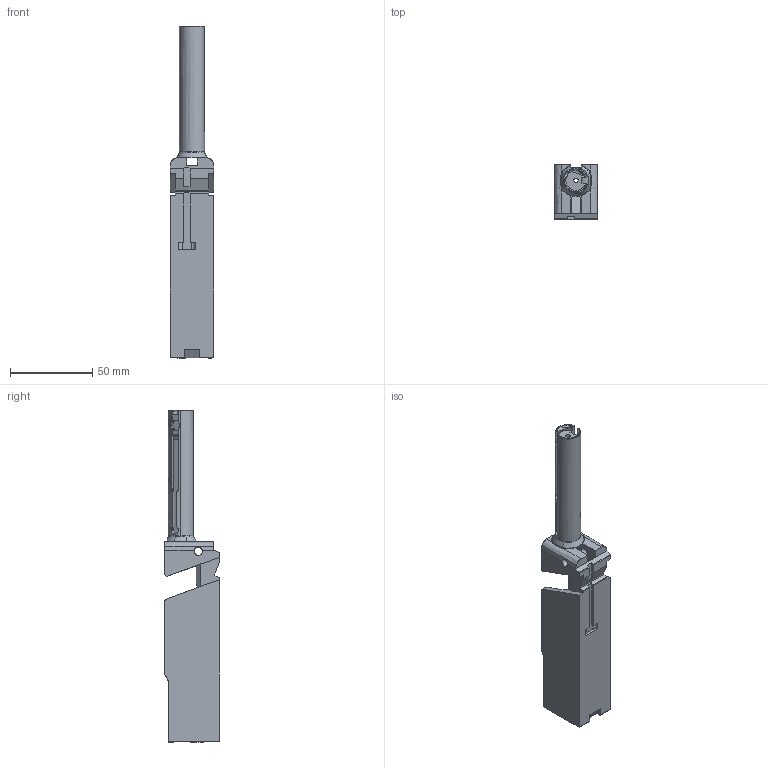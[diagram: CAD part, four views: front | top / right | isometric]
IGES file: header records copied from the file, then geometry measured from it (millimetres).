
Start section: SolidWorks IGES file using analytic representation for surfaces
Global section: file name: C:\Users\Nick\Documents\CAD\Thompson SMG\1928 Bolt (revision 03.26.11).IGS; native system: SolidWorks 2010; preprocessor: SolidWorks 2010; author: Nick; date: 110326.024515; units: inch
Bounding box: 26.67 x 32.94 x 201.32 mm (x, y, z)
Surface area: 25949.4 mm2 (no closed solid volume)
Topology: 0 solids, 0 shells, 172 faces, 2151 edges, 2139 vertices
Faces by surface type: bspline 104, revolution 68
